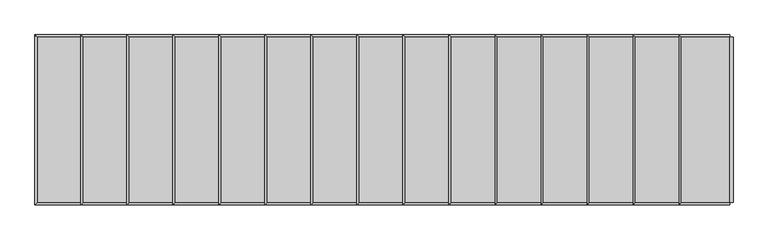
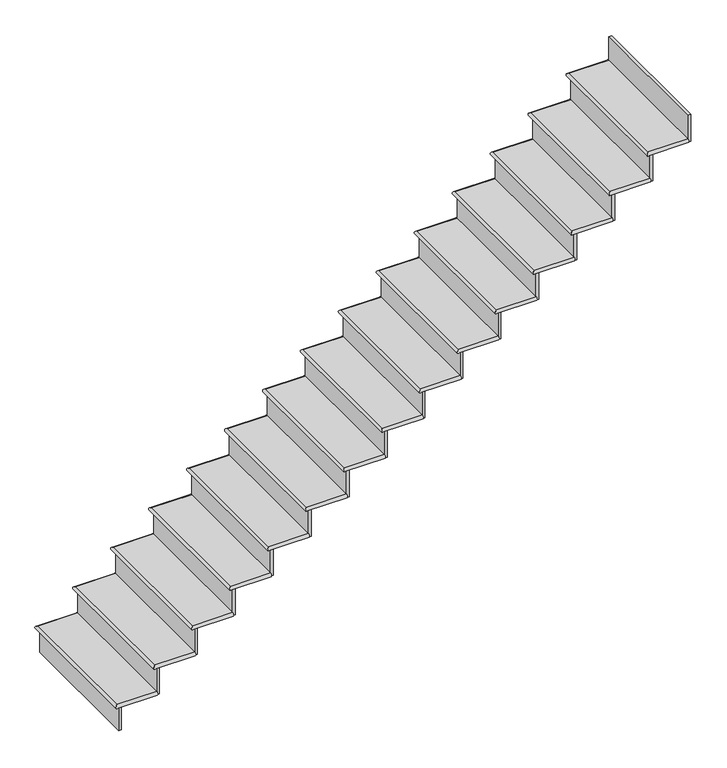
"""IFC4 building model written with IfcOpenShell, lengths in millimetres: stair flight geometry."""

from ifc_helpers import new_model, si_unit, frame, origin, place, context, project, spatial, circle_curve, ellipse_curve, faceted_brep, source, transform, mapped, element, save
from ifc_brep_helpers import plane_surface, cylinder_surface, advanced_brep


def stair_flight_3790ce72(model_context):
    return source(origin(), model_context, "Body", "SolidModel", [
        advanced_brep(
        [(-27218.1481446, 3955.9128094, 165.1), (-27218.1481446, 3955.9128094, 190.5), (-27218.1481446, 4870.3128094, 190.5), (-27218.1481446, 4870.3128094, 165.1), (-26951.4481446, 3955.9128094, 190.5), (-26951.4481446, 4870.3128094, 190.5), (-26951.4481446, 4870.3128094, 165.1), (-26951.4481446, 3955.9128094, 165.1)],
        [
            (0, 1, ellipse_curve(frame((-27218.1481446, 3955.9128094, 177.8), z_axis=(-0.7071067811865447, 0.7071067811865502, 0.0), x_axis=(-0.7071067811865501, -0.7071067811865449, 0.0)), 17.9605122, 12.7)),
            (1, 2),
            (2, 3, ellipse_curve(frame((-27218.1481446, 4870.3128094, 177.8), z_axis=(-0.7071067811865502, -0.7071067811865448, 0.0), x_axis=(0.7071067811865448, -0.7071067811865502, 0.0)), 17.9605122, 12.7)),
            (3, 0),
            (4, 5),
            (5, 2),
            (1, 4),
            (6, 7),
            (7, 0),
            (3, 6),
            (4, 7, circle_curve(frame((-26951.4481446, 3955.9128094, 177.8), z_axis=(1.0, 0.0, 0.0), x_axis=(0.0, 1.0, 0.0)), 12.7)),
            (6, 5, circle_curve(frame((-26951.4481446, 4870.3128094, 177.8), z_axis=(1.0, 0.0, 0.0), x_axis=(0.0, -1.0, 0.0)), 12.7)),
        ],
        [
            cylinder_surface(frame((-27218.1481446, 3955.9128094, 177.8), z_axis=(0.0, -1.0, 0.0), x_axis=(1.0, 0.0, 0.0)), 12.7),
            plane_surface(frame((-27230.8481446, 4870.3128094, 190.5), z_axis=(0.0, 0.0, 1.0), x_axis=(-1.0, 0.0, 0.0))),
            plane_surface(frame((-27230.8481446, 4870.3128094, 165.1), z_axis=(0.0, 0.0, -1.0), x_axis=(1.0, 0.0, 0.0))),
            plane_surface(frame((-26951.4481446, 3955.9128094, 190.5), z_axis=(1.0, 0.0, 0.0), x_axis=(0.0, 0.0, -1.0))),
            cylinder_surface(frame((-26951.4481446, 3955.9128094, 177.8), z_axis=(1.0, 0.0, 0.0), x_axis=(0.0, 1.0, 0.0)), 12.7),
            cylinder_surface(frame((-27218.1481446, 4870.3128094, 177.8), z_axis=(-1.0, 0.0, 0.0), x_axis=(0.0, -1.0, 0.0)), 12.7),
        ],
        [
            (0, [[1, 2, 3, 4]]),
            (1, [[5, 6, -2, 7]]),
            (2, [[8, 9, -4, 10]]),
            (3, [[-5, 11, -8, 12]]),
            (4, [[-11, -7, -1, -9]]),
            (5, [[-3, -6, -12, -10]]),
        ],
    ),
        faceted_brep([(-27205.4481446, 3955.9128094, 165.1), (-27205.4481446, 3955.9128094, 0.0), (-27186.3981446, 3955.9128094, 0.0), (-27186.3981446, 3955.9128094, 165.1), (-27205.4481446, 4870.3128094, 165.1), (-27186.3981446, 4870.3128094, 165.1), (-27186.3981446, 4870.3128094, 0.0), (-27205.4481446, 4870.3128094, 0.0)], [[[0, 1, 2, 3]], [[4, 5, 6, 7]], [[1, 0, 4, 7]], [[2, 1, 7, 6]], [[3, 2, 6, 5]], [[0, 3, 5, 4]]]),
        faceted_brep([(-26951.4481446, 3955.9128094, 355.6), (-26951.4481446, 3955.9128094, 165.1), (-26932.3981446, 3955.9128094, 165.1), (-26932.3981446, 3955.9128094, 355.6), (-26951.4481446, 4870.3128094, 355.6), (-26932.3981446, 4870.3128094, 355.6), (-26932.3981446, 4870.3128094, 165.1), (-26951.4481446, 4870.3128094, 165.1)], [[[0, 1, 2, 3]], [[4, 5, 6, 7]], [[1, 0, 4, 7]], [[2, 1, 7, 6]], [[3, 2, 6, 5]], [[0, 3, 5, 4]]]),
        advanced_brep(
        [(-26697.4481446, 3955.9128094, 381.0), (-26697.4481446, 4870.3128094, 381.0), (-26964.1481446, 4870.3128094, 381.0), (-26964.1481446, 3955.9128094, 381.0), (-26697.4481446, 4870.3128094, 355.6), (-26697.4481446, 3955.9128094, 355.6), (-26964.1481446, 3955.9128094, 355.6), (-26964.1481446, 4870.3128094, 355.6)],
        [
            (0, 1),
            (1, 2),
            (2, 3),
            (3, 0),
            (4, 5),
            (5, 6),
            (6, 7),
            (7, 4),
            (0, 5, circle_curve(frame((-26697.4481446, 3955.9128094, 368.3), z_axis=(1.0, 0.0, 0.0), x_axis=(0.0, 1.0, 0.0)), 12.7)),
            (4, 1, circle_curve(frame((-26697.4481446, 4870.3128094, 368.3), z_axis=(1.0, 0.0, 0.0), x_axis=(0.0, -1.0, 0.0)), 12.7)),
            (6, 3, ellipse_curve(frame((-26964.1481446, 3955.9128094, 368.3), z_axis=(-0.7071067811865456, 0.7071067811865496, 0.0), x_axis=(-0.7071067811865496, -0.7071067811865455, 0.0)), 17.9605122, 12.7)),
            (2, 7, ellipse_curve(frame((-26964.1481446, 4870.3128094, 368.3), z_axis=(-0.7071067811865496, -0.7071067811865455, 0.0), x_axis=(0.7071067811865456, -0.7071067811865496, 0.0)), 17.9605122, 12.7)),
        ],
        [
            plane_surface(frame((-27230.8481446, 4870.3128094, 381.0), z_axis=(0.0, 0.0, 1.0), x_axis=(-1.0, 0.0, 0.0))),
            plane_surface(frame((-27230.8481446, 4870.3128094, 355.6), z_axis=(0.0, 0.0, -1.0), x_axis=(1.0, 0.0, 0.0))),
            plane_surface(frame((-26697.4481446, 3955.9128094, 381.0), z_axis=(1.0, 0.0, 0.0), x_axis=(0.0, 0.0, -1.0))),
            cylinder_surface(frame((-26964.1481446, 3955.9128094, 368.3), z_axis=(0.0, -1.0, 0.0), x_axis=(1.0, 0.0, 0.0)), 12.7),
            cylinder_surface(frame((-26697.4481446, 3955.9128094, 368.3), z_axis=(1.0, 0.0, 0.0), x_axis=(0.0, 1.0, 0.0)), 12.7),
            cylinder_surface(frame((-26964.1481446, 4870.3128094, 368.3), z_axis=(-1.0, 0.0, 0.0), x_axis=(0.0, -1.0, 0.0)), 12.7),
        ],
        [
            (0, [[1, 2, 3, 4]]),
            (1, [[5, 6, 7, 8]]),
            (2, [[-1, 9, -5, 10]]),
            (3, [[11, -3, 12, -7]]),
            (4, [[-9, -4, -11, -6]]),
            (5, [[-12, -2, -10, -8]]),
        ],
    ),
        faceted_brep([(-26697.4481446, 3955.9128094, 546.1), (-26697.4481446, 3955.9128094, 355.6), (-26678.3981446, 3955.9128094, 355.6), (-26678.3981446, 3955.9128094, 546.1), (-26697.4481446, 4870.3128094, 546.1), (-26678.3981446, 4870.3128094, 546.1), (-26678.3981446, 4870.3128094, 355.6), (-26697.4481446, 4870.3128094, 355.6)], [[[0, 1, 2, 3]], [[4, 5, 6, 7]], [[1, 0, 4, 7]], [[2, 1, 7, 6]], [[3, 2, 6, 5]], [[0, 3, 5, 4]]]),
        advanced_brep(
        [(-26443.4481446, 3955.9128094, 571.5), (-26443.4481446, 4870.3128094, 571.5), (-26710.1481446, 4870.3128094, 571.5), (-26710.1481446, 3955.9128094, 571.5), (-26443.4481446, 4870.3128094, 546.1), (-26443.4481446, 3955.9128094, 546.1), (-26710.1481446, 3955.9128094, 546.1), (-26710.1481446, 4870.3128094, 546.1)],
        [
            (0, 1),
            (1, 2),
            (2, 3),
            (3, 0),
            (4, 5),
            (5, 6),
            (6, 7),
            (7, 4),
            (0, 5, circle_curve(frame((-26443.4481446, 3955.9128094, 558.8), z_axis=(1.0, 0.0, 0.0), x_axis=(0.0, 1.0, 0.0)), 12.7)),
            (4, 1, circle_curve(frame((-26443.4481446, 4870.3128094, 558.8), z_axis=(1.0, 0.0, 0.0), x_axis=(0.0, -1.0, 0.0)), 12.7)),
            (6, 3, ellipse_curve(frame((-26710.1481446, 3955.9128094, 558.8), z_axis=(-0.7071067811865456, 0.7071067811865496, 0.0), x_axis=(-0.7071067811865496, -0.7071067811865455, 0.0)), 17.9605122, 12.7)),
            (2, 7, ellipse_curve(frame((-26710.1481446, 4870.3128094, 558.8), z_axis=(-0.7071067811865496, -0.7071067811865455, 0.0), x_axis=(0.7071067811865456, -0.7071067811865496, 0.0)), 17.9605122, 12.7)),
        ],
        [
            plane_surface(frame((-26976.8481446, 4870.3128094, 571.5), z_axis=(0.0, 0.0, 1.0), x_axis=(-1.0, 0.0, 0.0))),
            plane_surface(frame((-26976.8481446, 4870.3128094, 546.1), z_axis=(0.0, 0.0, -1.0), x_axis=(1.0, 0.0, 0.0))),
            plane_surface(frame((-26443.4481446, 3955.9128094, 571.5), z_axis=(1.0, 0.0, 0.0), x_axis=(0.0, 0.0, -1.0))),
            cylinder_surface(frame((-26710.1481446, 3955.9128094, 558.8), z_axis=(0.0, -1.0, 0.0), x_axis=(1.0, 0.0, 0.0)), 12.7),
            cylinder_surface(frame((-26443.4481446, 3955.9128094, 558.8), z_axis=(1.0, 0.0, 0.0), x_axis=(0.0, 1.0, 0.0)), 12.7),
            cylinder_surface(frame((-26710.1481446, 4870.3128094, 558.8), z_axis=(-1.0, 0.0, 0.0), x_axis=(0.0, -1.0, 0.0)), 12.7),
        ],
        [
            (0, [[1, 2, 3, 4]]),
            (1, [[5, 6, 7, 8]]),
            (2, [[-1, 9, -5, 10]]),
            (3, [[11, -3, 12, -7]]),
            (4, [[-9, -4, -11, -6]]),
            (5, [[-12, -2, -10, -8]]),
        ],
    ),
        faceted_brep([(-26443.4481446, 3955.9128094, 736.6), (-26443.4481446, 3955.9128094, 546.1), (-26424.3981446, 3955.9128094, 546.1), (-26424.3981446, 3955.9128094, 736.6), (-26443.4481446, 4870.3128094, 736.6), (-26424.3981446, 4870.3128094, 736.6), (-26424.3981446, 4870.3128094, 546.1), (-26443.4481446, 4870.3128094, 546.1)], [[[0, 1, 2, 3]], [[4, 5, 6, 7]], [[1, 0, 4, 7]], [[2, 1, 7, 6]], [[3, 2, 6, 5]], [[0, 3, 5, 4]]]),
        advanced_brep(
        [(-26189.4481446, 3955.9128094, 762.0), (-26189.4481446, 4870.3128094, 762.0), (-26456.1481446, 4870.3128094, 762.0), (-26456.1481446, 3955.9128094, 762.0), (-26189.4481446, 4870.3128094, 736.6), (-26189.4481446, 3955.9128094, 736.6), (-26456.1481446, 3955.9128094, 736.6), (-26456.1481446, 4870.3128094, 736.6)],
        [
            (0, 1),
            (1, 2),
            (2, 3),
            (3, 0),
            (4, 5),
            (5, 6),
            (6, 7),
            (7, 4),
            (0, 5, circle_curve(frame((-26189.4481446, 3955.9128094, 749.3), z_axis=(1.0, 0.0, 0.0), x_axis=(0.0, 1.0, 0.0)), 12.7)),
            (4, 1, circle_curve(frame((-26189.4481446, 4870.3128094, 749.3), z_axis=(1.0, 0.0, 0.0), x_axis=(0.0, -1.0, 0.0)), 12.7)),
            (6, 3, ellipse_curve(frame((-26456.1481446, 3955.9128094, 749.3), z_axis=(-0.7071067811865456, 0.7071067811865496, 0.0), x_axis=(-0.7071067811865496, -0.7071067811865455, 0.0)), 17.9605122, 12.7)),
            (2, 7, ellipse_curve(frame((-26456.1481446, 4870.3128094, 749.3), z_axis=(-0.7071067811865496, -0.7071067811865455, 0.0), x_axis=(0.7071067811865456, -0.7071067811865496, 0.0)), 17.9605122, 12.7)),
        ],
        [
            plane_surface(frame((-26722.8481446, 4870.3128094, 762.0), z_axis=(0.0, 0.0, 1.0), x_axis=(-1.0, 0.0, 0.0))),
            plane_surface(frame((-26722.8481446, 4870.3128094, 736.6), z_axis=(0.0, 0.0, -1.0), x_axis=(1.0, 0.0, 0.0))),
            plane_surface(frame((-26189.4481446, 3955.9128094, 762.0), z_axis=(1.0, 0.0, 0.0), x_axis=(0.0, 0.0, -1.0))),
            cylinder_surface(frame((-26456.1481446, 3955.9128094, 749.3), z_axis=(0.0, -1.0, 0.0), x_axis=(1.0, 0.0, 0.0)), 12.7),
            cylinder_surface(frame((-26189.4481446, 3955.9128094, 749.3), z_axis=(1.0, 0.0, 0.0), x_axis=(0.0, 1.0, 0.0)), 12.7),
            cylinder_surface(frame((-26456.1481446, 4870.3128094, 749.3), z_axis=(-1.0, 0.0, 0.0), x_axis=(0.0, -1.0, 0.0)), 12.7),
        ],
        [
            (0, [[1, 2, 3, 4]]),
            (1, [[5, 6, 7, 8]]),
            (2, [[-1, 9, -5, 10]]),
            (3, [[11, -3, 12, -7]]),
            (4, [[-9, -4, -11, -6]]),
            (5, [[-12, -2, -10, -8]]),
        ],
    ),
        faceted_brep([(-26189.4481446, 3955.9128094, 927.1), (-26189.4481446, 3955.9128094, 736.6), (-26170.3981446, 3955.9128094, 736.6), (-26170.3981446, 3955.9128094, 927.1), (-26189.4481446, 4870.3128094, 927.1), (-26170.3981446, 4870.3128094, 927.1), (-26170.3981446, 4870.3128094, 736.6), (-26189.4481446, 4870.3128094, 736.6)], [[[0, 1, 2, 3]], [[4, 5, 6, 7]], [[1, 0, 4, 7]], [[2, 1, 7, 6]], [[3, 2, 6, 5]], [[0, 3, 5, 4]]]),
        advanced_brep(
        [(-25935.4481446, 3955.9128094, 952.5), (-25935.4481446, 4870.3128094, 952.5), (-26202.1481446, 4870.3128094, 952.5), (-26202.1481446, 3955.9128094, 952.5), (-25935.4481446, 4870.3128094, 927.1), (-25935.4481446, 3955.9128094, 927.1), (-26202.1481446, 3955.9128094, 927.1), (-26202.1481446, 4870.3128094, 927.1)],
        [
            (0, 1),
            (1, 2),
            (2, 3),
            (3, 0),
            (4, 5),
            (5, 6),
            (6, 7),
            (7, 4),
            (0, 5, circle_curve(frame((-25935.4481446, 3955.9128094, 939.8), z_axis=(1.0, 0.0, 0.0), x_axis=(0.0, 1.0, 0.0)), 12.7)),
            (4, 1, circle_curve(frame((-25935.4481446, 4870.3128094, 939.8), z_axis=(1.0, 0.0, 0.0), x_axis=(0.0, -1.0, 0.0)), 12.7)),
            (6, 3, ellipse_curve(frame((-26202.1481446, 3955.9128094, 939.8), z_axis=(-0.7071067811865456, 0.7071067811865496, 0.0), x_axis=(-0.7071067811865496, -0.7071067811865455, 0.0)), 17.9605122, 12.7)),
            (2, 7, ellipse_curve(frame((-26202.1481446, 4870.3128094, 939.8), z_axis=(-0.7071067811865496, -0.7071067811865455, 0.0), x_axis=(0.7071067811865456, -0.7071067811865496, 0.0)), 17.9605122, 12.7)),
        ],
        [
            plane_surface(frame((-26468.8481446, 4870.3128094, 952.5), z_axis=(0.0, 0.0, 1.0), x_axis=(-1.0, 0.0, 0.0))),
            plane_surface(frame((-26468.8481446, 4870.3128094, 927.1), z_axis=(0.0, 0.0, -1.0), x_axis=(1.0, 0.0, 0.0))),
            plane_surface(frame((-25935.4481446, 3955.9128094, 952.5), z_axis=(1.0, 0.0, 0.0), x_axis=(0.0, 0.0, -1.0))),
            cylinder_surface(frame((-26202.1481446, 3955.9128094, 939.8), z_axis=(0.0, -1.0, 0.0), x_axis=(1.0, 0.0, 0.0)), 12.7),
            cylinder_surface(frame((-25935.4481446, 3955.9128094, 939.8), z_axis=(1.0, 0.0, 0.0), x_axis=(0.0, 1.0, 0.0)), 12.7),
            cylinder_surface(frame((-26202.1481446, 4870.3128094, 939.8), z_axis=(-1.0, 0.0, 0.0), x_axis=(0.0, -1.0, 0.0)), 12.7),
        ],
        [
            (0, [[1, 2, 3, 4]]),
            (1, [[5, 6, 7, 8]]),
            (2, [[-1, 9, -5, 10]]),
            (3, [[11, -3, 12, -7]]),
            (4, [[-9, -4, -11, -6]]),
            (5, [[-12, -2, -10, -8]]),
        ],
    ),
        faceted_brep([(-25935.4481446, 3955.9128094, 1117.6), (-25935.4481446, 3955.9128094, 927.1), (-25916.3981446, 3955.9128094, 927.1), (-25916.3981446, 3955.9128094, 1117.6), (-25935.4481446, 4870.3128094, 1117.6), (-25916.3981446, 4870.3128094, 1117.6), (-25916.3981446, 4870.3128094, 927.1), (-25935.4481446, 4870.3128094, 927.1)], [[[0, 1, 2, 3]], [[4, 5, 6, 7]], [[1, 0, 4, 7]], [[2, 1, 7, 6]], [[3, 2, 6, 5]], [[0, 3, 5, 4]]]),
        advanced_brep(
        [(-25681.4481446, 3955.9128094, 1143.0), (-25681.4481446, 4870.3128094, 1143.0), (-25948.1481446, 4870.3128094, 1143.0), (-25948.1481446, 3955.9128094, 1143.0), (-25681.4481446, 4870.3128094, 1117.6), (-25681.4481446, 3955.9128094, 1117.6), (-25948.1481446, 3955.9128094, 1117.6), (-25948.1481446, 4870.3128094, 1117.6)],
        [
            (0, 1),
            (1, 2),
            (2, 3),
            (3, 0),
            (4, 5),
            (5, 6),
            (6, 7),
            (7, 4),
            (0, 5, circle_curve(frame((-25681.4481446, 3955.9128094, 1130.3), z_axis=(1.0, 0.0, 0.0), x_axis=(0.0, 1.0, 0.0)), 12.7)),
            (4, 1, circle_curve(frame((-25681.4481446, 4870.3128094, 1130.3), z_axis=(1.0, 0.0, 0.0), x_axis=(0.0, -1.0, 0.0)), 12.7)),
            (6, 3, ellipse_curve(frame((-25948.1481446, 3955.9128094, 1130.3), z_axis=(-0.7071067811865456, 0.7071067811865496, 0.0), x_axis=(-0.7071067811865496, -0.7071067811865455, 0.0)), 17.9605122, 12.7)),
            (2, 7, ellipse_curve(frame((-25948.1481446, 4870.3128094, 1130.3), z_axis=(-0.7071067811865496, -0.7071067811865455, 0.0), x_axis=(0.7071067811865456, -0.7071067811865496, 0.0)), 17.9605122, 12.7)),
        ],
        [
            plane_surface(frame((-26214.8481446, 4870.3128094, 1143.0), z_axis=(0.0, 0.0, 1.0), x_axis=(-1.0, 0.0, 0.0))),
            plane_surface(frame((-26214.8481446, 4870.3128094, 1117.6), z_axis=(0.0, 0.0, -1.0), x_axis=(1.0, 0.0, 0.0))),
            plane_surface(frame((-25681.4481446, 3955.9128094, 1143.0), z_axis=(1.0, 0.0, 0.0), x_axis=(0.0, 0.0, -1.0))),
            cylinder_surface(frame((-25948.1481446, 3955.9128094, 1130.3), z_axis=(0.0, -1.0, 0.0), x_axis=(1.0, 0.0, 0.0)), 12.7),
            cylinder_surface(frame((-25681.4481446, 3955.9128094, 1130.3), z_axis=(1.0, 0.0, 0.0), x_axis=(0.0, 1.0, 0.0)), 12.7),
            cylinder_surface(frame((-25948.1481446, 4870.3128094, 1130.3), z_axis=(-1.0, 0.0, 0.0), x_axis=(0.0, -1.0, 0.0)), 12.7),
        ],
        [
            (0, [[1, 2, 3, 4]]),
            (1, [[5, 6, 7, 8]]),
            (2, [[-1, 9, -5, 10]]),
            (3, [[11, -3, 12, -7]]),
            (4, [[-9, -4, -11, -6]]),
            (5, [[-12, -2, -10, -8]]),
        ],
    ),
        faceted_brep([(-25681.4481446, 3955.9128094, 1308.1), (-25681.4481446, 3955.9128094, 1117.6), (-25662.3981446, 3955.9128094, 1117.6), (-25662.3981446, 3955.9128094, 1308.1), (-25681.4481446, 4870.3128094, 1308.1), (-25662.3981446, 4870.3128094, 1308.1), (-25662.3981446, 4870.3128094, 1117.6), (-25681.4481446, 4870.3128094, 1117.6)], [[[0, 1, 2, 3]], [[4, 5, 6, 7]], [[1, 0, 4, 7]], [[2, 1, 7, 6]], [[3, 2, 6, 5]], [[0, 3, 5, 4]]]),
        advanced_brep(
        [(-25427.4481446, 3955.9128094, 1333.5), (-25427.4481446, 4870.3128094, 1333.5), (-25694.1481446, 4870.3128094, 1333.5), (-25694.1481446, 3955.9128094, 1333.5), (-25427.4481446, 4870.3128094, 1308.1), (-25427.4481446, 3955.9128094, 1308.1), (-25694.1481446, 3955.9128094, 1308.1), (-25694.1481446, 4870.3128094, 1308.1)],
        [
            (0, 1),
            (1, 2),
            (2, 3),
            (3, 0),
            (4, 5),
            (5, 6),
            (6, 7),
            (7, 4),
            (0, 5, circle_curve(frame((-25427.4481446, 3955.9128094, 1320.8), z_axis=(1.0, 0.0, 0.0), x_axis=(0.0, 1.0, 0.0)), 12.7)),
            (4, 1, circle_curve(frame((-25427.4481446, 4870.3128094, 1320.8), z_axis=(1.0, 0.0, 0.0), x_axis=(0.0, -1.0, 0.0)), 12.7)),
            (6, 3, ellipse_curve(frame((-25694.1481446, 3955.9128094, 1320.8), z_axis=(-0.7071067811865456, 0.7071067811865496, 0.0), x_axis=(-0.7071067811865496, -0.7071067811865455, 0.0)), 17.9605122, 12.7)),
            (2, 7, ellipse_curve(frame((-25694.1481446, 4870.3128094, 1320.8), z_axis=(-0.7071067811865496, -0.7071067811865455, 0.0), x_axis=(0.7071067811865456, -0.7071067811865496, 0.0)), 17.9605122, 12.7)),
        ],
        [
            plane_surface(frame((-25960.8481446, 4870.3128094, 1333.5), z_axis=(0.0, 0.0, 1.0), x_axis=(-1.0, 0.0, 0.0))),
            plane_surface(frame((-25960.8481446, 4870.3128094, 1308.1), z_axis=(0.0, 0.0, -1.0), x_axis=(1.0, 0.0, 0.0))),
            plane_surface(frame((-25427.4481446, 3955.9128094, 1333.5), z_axis=(1.0, 0.0, 0.0), x_axis=(0.0, 0.0, -1.0))),
            cylinder_surface(frame((-25694.1481446, 3955.9128094, 1320.8), z_axis=(0.0, -1.0, 0.0), x_axis=(1.0, 0.0, 0.0)), 12.7),
            cylinder_surface(frame((-25427.4481446, 3955.9128094, 1320.8), z_axis=(1.0, 0.0, 0.0), x_axis=(0.0, 1.0, 0.0)), 12.7),
            cylinder_surface(frame((-25694.1481446, 4870.3128094, 1320.8), z_axis=(-1.0, 0.0, 0.0), x_axis=(0.0, -1.0, 0.0)), 12.7),
        ],
        [
            (0, [[1, 2, 3, 4]]),
            (1, [[5, 6, 7, 8]]),
            (2, [[-1, 9, -5, 10]]),
            (3, [[11, -3, 12, -7]]),
            (4, [[-9, -4, -11, -6]]),
            (5, [[-12, -2, -10, -8]]),
        ],
    ),
        faceted_brep([(-25427.4481446, 3955.9128094, 1498.6), (-25427.4481446, 3955.9128094, 1308.1), (-25408.3981446, 3955.9128094, 1308.1), (-25408.3981446, 3955.9128094, 1498.6), (-25427.4481446, 4870.3128094, 1498.6), (-25408.3981446, 4870.3128094, 1498.6), (-25408.3981446, 4870.3128094, 1308.1), (-25427.4481446, 4870.3128094, 1308.1)], [[[0, 1, 2, 3]], [[4, 5, 6, 7]], [[1, 0, 4, 7]], [[2, 1, 7, 6]], [[3, 2, 6, 5]], [[0, 3, 5, 4]]]),
        advanced_brep(
        [(-25173.4481446, 3955.9128094, 1524.0), (-25173.4481446, 4870.3128094, 1524.0), (-25440.1481446, 4870.3128094, 1524.0), (-25440.1481446, 3955.9128094, 1524.0), (-25173.4481446, 4870.3128094, 1498.6), (-25173.4481446, 3955.9128094, 1498.6), (-25440.1481446, 3955.9128094, 1498.6), (-25440.1481446, 4870.3128094, 1498.6)],
        [
            (0, 1),
            (1, 2),
            (2, 3),
            (3, 0),
            (4, 5),
            (5, 6),
            (6, 7),
            (7, 4),
            (0, 5, circle_curve(frame((-25173.4481446, 3955.9128094, 1511.3), z_axis=(1.0, 0.0, 0.0), x_axis=(0.0, 1.0, 0.0)), 12.7)),
            (4, 1, circle_curve(frame((-25173.4481446, 4870.3128094, 1511.3), z_axis=(1.0, 0.0, 0.0), x_axis=(0.0, -1.0, 0.0)), 12.7)),
            (6, 3, ellipse_curve(frame((-25440.1481446, 3955.9128094, 1511.3), z_axis=(-0.7071067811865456, 0.7071067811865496, 0.0), x_axis=(-0.7071067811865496, -0.7071067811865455, 0.0)), 17.9605122, 12.7)),
            (2, 7, ellipse_curve(frame((-25440.1481446, 4870.3128094, 1511.3), z_axis=(-0.7071067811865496, -0.7071067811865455, 0.0), x_axis=(0.7071067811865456, -0.7071067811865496, 0.0)), 17.9605122, 12.7)),
        ],
        [
            plane_surface(frame((-25706.8481446, 4870.3128094, 1524.0), z_axis=(0.0, 0.0, 1.0), x_axis=(-1.0, 0.0, 0.0))),
            plane_surface(frame((-25706.8481446, 4870.3128094, 1498.6), z_axis=(0.0, 0.0, -1.0), x_axis=(1.0, 0.0, 0.0))),
            plane_surface(frame((-25173.4481446, 3955.9128094, 1524.0), z_axis=(1.0, 0.0, 0.0), x_axis=(0.0, 0.0, -1.0))),
            cylinder_surface(frame((-25440.1481446, 3955.9128094, 1511.3), z_axis=(0.0, -1.0, 0.0), x_axis=(1.0, 0.0, 0.0)), 12.7),
            cylinder_surface(frame((-25173.4481446, 3955.9128094, 1511.3), z_axis=(1.0, 0.0, 0.0), x_axis=(0.0, 1.0, 0.0)), 12.7),
            cylinder_surface(frame((-25440.1481446, 4870.3128094, 1511.3), z_axis=(-1.0, 0.0, 0.0), x_axis=(0.0, -1.0, 0.0)), 12.7),
        ],
        [
            (0, [[1, 2, 3, 4]]),
            (1, [[5, 6, 7, 8]]),
            (2, [[-1, 9, -5, 10]]),
            (3, [[11, -3, 12, -7]]),
            (4, [[-9, -4, -11, -6]]),
            (5, [[-12, -2, -10, -8]]),
        ],
    ),
        faceted_brep([(-25173.4481446, 3955.9128094, 1689.1), (-25173.4481446, 3955.9128094, 1498.6), (-25154.3981446, 3955.9128094, 1498.6), (-25154.3981446, 3955.9128094, 1689.1), (-25173.4481446, 4870.3128094, 1689.1), (-25154.3981446, 4870.3128094, 1689.1), (-25154.3981446, 4870.3128094, 1498.6), (-25173.4481446, 4870.3128094, 1498.6)], [[[0, 1, 2, 3]], [[4, 5, 6, 7]], [[1, 0, 4, 7]], [[2, 1, 7, 6]], [[3, 2, 6, 5]], [[0, 3, 5, 4]]]),
        advanced_brep(
        [(-24919.4481446, 3955.9128094, 1714.5), (-24919.4481446, 4870.3128094, 1714.5), (-25186.1481446, 4870.3128094, 1714.5), (-25186.1481446, 3955.9128094, 1714.5), (-24919.4481446, 4870.3128094, 1689.1), (-24919.4481446, 3955.9128094, 1689.1), (-25186.1481446, 3955.9128094, 1689.1), (-25186.1481446, 4870.3128094, 1689.1)],
        [
            (0, 1),
            (1, 2),
            (2, 3),
            (3, 0),
            (4, 5),
            (5, 6),
            (6, 7),
            (7, 4),
            (0, 5, circle_curve(frame((-24919.4481446, 3955.9128094, 1701.8), z_axis=(1.0, 0.0, 0.0), x_axis=(0.0, 1.0, 0.0)), 12.7)),
            (4, 1, circle_curve(frame((-24919.4481446, 4870.3128094, 1701.8), z_axis=(1.0, 0.0, 0.0), x_axis=(0.0, -1.0, 0.0)), 12.7)),
            (6, 3, ellipse_curve(frame((-25186.1481446, 3955.9128094, 1701.8), z_axis=(-0.7071067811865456, 0.7071067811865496, 0.0), x_axis=(-0.7071067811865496, -0.7071067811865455, 0.0)), 17.9605122, 12.7)),
            (2, 7, ellipse_curve(frame((-25186.1481446, 4870.3128094, 1701.8), z_axis=(-0.7071067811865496, -0.7071067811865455, 0.0), x_axis=(0.7071067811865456, -0.7071067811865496, 0.0)), 17.9605122, 12.7)),
        ],
        [
            plane_surface(frame((-25452.8481446, 4870.3128094, 1714.5), z_axis=(0.0, 0.0, 1.0), x_axis=(-1.0, 0.0, 0.0))),
            plane_surface(frame((-25452.8481446, 4870.3128094, 1689.1), z_axis=(0.0, 0.0, -1.0), x_axis=(1.0, 0.0, 0.0))),
            plane_surface(frame((-24919.4481446, 3955.9128094, 1714.5), z_axis=(1.0, 0.0, 0.0), x_axis=(0.0, 0.0, -1.0))),
            cylinder_surface(frame((-25186.1481446, 3955.9128094, 1701.8), z_axis=(0.0, -1.0, 0.0), x_axis=(1.0, 0.0, 0.0)), 12.7),
            cylinder_surface(frame((-24919.4481446, 3955.9128094, 1701.8), z_axis=(1.0, 0.0, 0.0), x_axis=(0.0, 1.0, 0.0)), 12.7),
            cylinder_surface(frame((-25186.1481446, 4870.3128094, 1701.8), z_axis=(-1.0, 0.0, 0.0), x_axis=(0.0, -1.0, 0.0)), 12.7),
        ],
        [
            (0, [[1, 2, 3, 4]]),
            (1, [[5, 6, 7, 8]]),
            (2, [[-1, 9, -5, 10]]),
            (3, [[11, -3, 12, -7]]),
            (4, [[-9, -4, -11, -6]]),
            (5, [[-12, -2, -10, -8]]),
        ],
    ),
        faceted_brep([(-24919.4481446, 3955.9128094, 1879.6), (-24919.4481446, 3955.9128094, 1689.1), (-24900.3981446, 3955.9128094, 1689.1), (-24900.3981446, 3955.9128094, 1879.6), (-24919.4481446, 4870.3128094, 1879.6), (-24900.3981446, 4870.3128094, 1879.6), (-24900.3981446, 4870.3128094, 1689.1), (-24919.4481446, 4870.3128094, 1689.1)], [[[0, 1, 2, 3]], [[4, 5, 6, 7]], [[1, 0, 4, 7]], [[2, 1, 7, 6]], [[3, 2, 6, 5]], [[0, 3, 5, 4]]]),
        advanced_brep(
        [(-24665.4481446, 3955.9128094, 1905.0), (-24665.4481446, 4870.3128094, 1905.0), (-24932.1481446, 4870.3128094, 1905.0), (-24932.1481446, 3955.9128094, 1905.0), (-24665.4481446, 4870.3128094, 1879.6), (-24665.4481446, 3955.9128094, 1879.6), (-24932.1481446, 3955.9128094, 1879.6), (-24932.1481446, 4870.3128094, 1879.6)],
        [
            (0, 1),
            (1, 2),
            (2, 3),
            (3, 0),
            (4, 5),
            (5, 6),
            (6, 7),
            (7, 4),
            (0, 5, circle_curve(frame((-24665.4481446, 3955.9128094, 1892.3), z_axis=(1.0, 0.0, 0.0), x_axis=(0.0, 1.0, 0.0)), 12.7)),
            (4, 1, circle_curve(frame((-24665.4481446, 4870.3128094, 1892.3), z_axis=(1.0, 0.0, 0.0), x_axis=(0.0, -1.0, 0.0)), 12.7)),
            (6, 3, ellipse_curve(frame((-24932.1481446, 3955.9128094, 1892.3), z_axis=(-0.7071067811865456, 0.7071067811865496, 0.0), x_axis=(-0.7071067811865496, -0.7071067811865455, 0.0)), 17.9605122, 12.7)),
            (2, 7, ellipse_curve(frame((-24932.1481446, 4870.3128094, 1892.3), z_axis=(-0.7071067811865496, -0.7071067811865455, 0.0), x_axis=(0.7071067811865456, -0.7071067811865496, 0.0)), 17.9605122, 12.7)),
        ],
        [
            plane_surface(frame((-25198.8481446, 4870.3128094, 1905.0), z_axis=(0.0, 0.0, 1.0), x_axis=(-1.0, 0.0, 0.0))),
            plane_surface(frame((-25198.8481446, 4870.3128094, 1879.6), z_axis=(0.0, 0.0, -1.0), x_axis=(1.0, 0.0, 0.0))),
            plane_surface(frame((-24665.4481446, 3955.9128094, 1905.0), z_axis=(1.0, 0.0, 0.0), x_axis=(0.0, 0.0, -1.0))),
            cylinder_surface(frame((-24932.1481446, 3955.9128094, 1892.3), z_axis=(0.0, -1.0, 0.0), x_axis=(1.0, 0.0, 0.0)), 12.7),
            cylinder_surface(frame((-24665.4481446, 3955.9128094, 1892.3), z_axis=(1.0, 0.0, 0.0), x_axis=(0.0, 1.0, 0.0)), 12.7),
            cylinder_surface(frame((-24932.1481446, 4870.3128094, 1892.3), z_axis=(-1.0, 0.0, 0.0), x_axis=(0.0, -1.0, 0.0)), 12.7),
        ],
        [
            (0, [[1, 2, 3, 4]]),
            (1, [[5, 6, 7, 8]]),
            (2, [[-1, 9, -5, 10]]),
            (3, [[11, -3, 12, -7]]),
            (4, [[-9, -4, -11, -6]]),
            (5, [[-12, -2, -10, -8]]),
        ],
    ),
        faceted_brep([(-24665.4481446, 3955.9128094, 2070.1), (-24665.4481446, 3955.9128094, 1879.6), (-24646.3981446, 3955.9128094, 1879.6), (-24646.3981446, 3955.9128094, 2070.1), (-24665.4481446, 4870.3128094, 2070.1), (-24646.3981446, 4870.3128094, 2070.1), (-24646.3981446, 4870.3128094, 1879.6), (-24665.4481446, 4870.3128094, 1879.6)], [[[0, 1, 2, 3]], [[4, 5, 6, 7]], [[1, 0, 4, 7]], [[2, 1, 7, 6]], [[3, 2, 6, 5]], [[0, 3, 5, 4]]]),
        advanced_brep(
        [(-24411.4481446, 3955.9128094, 2095.5), (-24411.4481446, 4870.3128094, 2095.5), (-24678.1481446, 4870.3128094, 2095.5), (-24678.1481446, 3955.9128094, 2095.5), (-24411.4481446, 4870.3128094, 2070.1), (-24411.4481446, 3955.9128094, 2070.1), (-24678.1481446, 3955.9128094, 2070.1), (-24678.1481446, 4870.3128094, 2070.1)],
        [
            (0, 1),
            (1, 2),
            (2, 3),
            (3, 0),
            (4, 5),
            (5, 6),
            (6, 7),
            (7, 4),
            (0, 5, circle_curve(frame((-24411.4481446, 3955.9128094, 2082.8), z_axis=(1.0, 0.0, 0.0), x_axis=(0.0, 1.0, 0.0)), 12.7)),
            (4, 1, circle_curve(frame((-24411.4481446, 4870.3128094, 2082.8), z_axis=(1.0, 0.0, 0.0), x_axis=(0.0, -1.0, 0.0)), 12.7)),
            (6, 3, ellipse_curve(frame((-24678.1481446, 3955.9128094, 2082.8), z_axis=(-0.7071067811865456, 0.7071067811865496, 0.0), x_axis=(-0.7071067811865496, -0.7071067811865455, 0.0)), 17.9605122, 12.7)),
            (2, 7, ellipse_curve(frame((-24678.1481446, 4870.3128094, 2082.8), z_axis=(-0.7071067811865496, -0.7071067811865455, 0.0), x_axis=(0.7071067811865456, -0.7071067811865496, 0.0)), 17.9605122, 12.7)),
        ],
        [
            plane_surface(frame((-24944.8481446, 4870.3128094, 2095.5), z_axis=(0.0, 0.0, 1.0), x_axis=(-1.0, 0.0, 0.0))),
            plane_surface(frame((-24944.8481446, 4870.3128094, 2070.1), z_axis=(0.0, 0.0, -1.0), x_axis=(1.0, 0.0, 0.0))),
            plane_surface(frame((-24411.4481446, 3955.9128094, 2095.5), z_axis=(1.0, 0.0, 0.0), x_axis=(0.0, 0.0, -1.0))),
            cylinder_surface(frame((-24678.1481446, 3955.9128094, 2082.8), z_axis=(0.0, -1.0, 0.0), x_axis=(1.0, 0.0, 0.0)), 12.7),
            cylinder_surface(frame((-24411.4481446, 3955.9128094, 2082.8), z_axis=(1.0, 0.0, 0.0), x_axis=(0.0, 1.0, 0.0)), 12.7),
            cylinder_surface(frame((-24678.1481446, 4870.3128094, 2082.8), z_axis=(-1.0, 0.0, 0.0), x_axis=(0.0, -1.0, 0.0)), 12.7),
        ],
        [
            (0, [[1, 2, 3, 4]]),
            (1, [[5, 6, 7, 8]]),
            (2, [[-1, 9, -5, 10]]),
            (3, [[11, -3, 12, -7]]),
            (4, [[-9, -4, -11, -6]]),
            (5, [[-12, -2, -10, -8]]),
        ],
    ),
        faceted_brep([(-24411.4481446, 3955.9128094, 2260.6), (-24411.4481446, 3955.9128094, 2070.1), (-24392.3981446, 3955.9128094, 2070.1), (-24392.3981446, 3955.9128094, 2260.6), (-24411.4481446, 4870.3128094, 2260.6), (-24392.3981446, 4870.3128094, 2260.6), (-24392.3981446, 4870.3128094, 2070.1), (-24411.4481446, 4870.3128094, 2070.1)], [[[0, 1, 2, 3]], [[4, 5, 6, 7]], [[1, 0, 4, 7]], [[2, 1, 7, 6]], [[3, 2, 6, 5]], [[0, 3, 5, 4]]]),
        advanced_brep(
        [(-24157.4481446, 3955.9128094, 2286.0), (-24157.4481446, 4870.3128094, 2286.0), (-24424.1481446, 4870.3128094, 2286.0), (-24424.1481446, 3955.9128094, 2286.0), (-24157.4481446, 4870.3128094, 2260.6), (-24157.4481446, 3955.9128094, 2260.6), (-24424.1481446, 3955.9128094, 2260.6), (-24424.1481446, 4870.3128094, 2260.6)],
        [
            (0, 1),
            (1, 2),
            (2, 3),
            (3, 0),
            (4, 5),
            (5, 6),
            (6, 7),
            (7, 4),
            (0, 5, circle_curve(frame((-24157.4481446, 3955.9128094, 2273.3), z_axis=(1.0, 0.0, 0.0), x_axis=(0.0, 1.0, 0.0)), 12.7)),
            (4, 1, circle_curve(frame((-24157.4481446, 4870.3128094, 2273.3), z_axis=(1.0, 0.0, 0.0), x_axis=(0.0, -1.0, 0.0)), 12.7)),
            (6, 3, ellipse_curve(frame((-24424.1481446, 3955.9128094, 2273.3), z_axis=(-0.7071067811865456, 0.7071067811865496, 0.0), x_axis=(-0.7071067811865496, -0.7071067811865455, 0.0)), 17.9605122, 12.7)),
            (2, 7, ellipse_curve(frame((-24424.1481446, 4870.3128094, 2273.3), z_axis=(-0.7071067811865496, -0.7071067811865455, 0.0), x_axis=(0.7071067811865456, -0.7071067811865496, 0.0)), 17.9605122, 12.7)),
        ],
        [
            plane_surface(frame((-24690.8481446, 4870.3128094, 2286.0), z_axis=(0.0, 0.0, 1.0), x_axis=(-1.0, 0.0, 0.0))),
            plane_surface(frame((-24690.8481446, 4870.3128094, 2260.6), z_axis=(0.0, 0.0, -1.0), x_axis=(1.0, 0.0, 0.0))),
            plane_surface(frame((-24157.4481446, 3955.9128094, 2286.0), z_axis=(1.0, 0.0, 0.0), x_axis=(0.0, 0.0, -1.0))),
            cylinder_surface(frame((-24424.1481446, 3955.9128094, 2273.3), z_axis=(0.0, -1.0, 0.0), x_axis=(1.0, 0.0, 0.0)), 12.7),
            cylinder_surface(frame((-24157.4481446, 3955.9128094, 2273.3), z_axis=(1.0, 0.0, 0.0), x_axis=(0.0, 1.0, 0.0)), 12.7),
            cylinder_surface(frame((-24424.1481446, 4870.3128094, 2273.3), z_axis=(-1.0, 0.0, 0.0), x_axis=(0.0, -1.0, 0.0)), 12.7),
        ],
        [
            (0, [[1, 2, 3, 4]]),
            (1, [[5, 6, 7, 8]]),
            (2, [[-1, 9, -5, 10]]),
            (3, [[11, -3, 12, -7]]),
            (4, [[-9, -4, -11, -6]]),
            (5, [[-12, -2, -10, -8]]),
        ],
    ),
        faceted_brep([(-24157.4481446, 3955.9128094, 2451.1), (-24157.4481446, 3955.9128094, 2260.6), (-24138.3981446, 3955.9128094, 2260.6), (-24138.3981446, 3955.9128094, 2451.1), (-24157.4481446, 4870.3128094, 2451.1), (-24138.3981446, 4870.3128094, 2451.1), (-24138.3981446, 4870.3128094, 2260.6), (-24157.4481446, 4870.3128094, 2260.6)], [[[0, 1, 2, 3]], [[4, 5, 6, 7]], [[1, 0, 4, 7]], [[2, 1, 7, 6]], [[3, 2, 6, 5]], [[0, 3, 5, 4]]]),
        advanced_brep(
        [(-23903.4481446, 3955.9128094, 2476.5), (-23903.4481446, 4870.3128094, 2476.5), (-24170.1481446, 4870.3128094, 2476.5), (-24170.1481446, 3955.9128094, 2476.5), (-23903.4481446, 4870.3128094, 2451.1), (-23903.4481446, 3955.9128094, 2451.1), (-24170.1481446, 3955.9128094, 2451.1), (-24170.1481446, 4870.3128094, 2451.1)],
        [
            (0, 1),
            (1, 2),
            (2, 3),
            (3, 0),
            (4, 5),
            (5, 6),
            (6, 7),
            (7, 4),
            (0, 5, circle_curve(frame((-23903.4481446, 3955.9128094, 2463.8), z_axis=(1.0, 0.0, 0.0), x_axis=(0.0, 1.0, 0.0)), 12.7)),
            (4, 1, circle_curve(frame((-23903.4481446, 4870.3128094, 2463.8), z_axis=(1.0, 0.0, 0.0), x_axis=(0.0, -1.0, 0.0)), 12.7)),
            (6, 3, ellipse_curve(frame((-24170.1481446, 3955.9128094, 2463.8), z_axis=(-0.7071067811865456, 0.7071067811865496, 0.0), x_axis=(-0.7071067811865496, -0.7071067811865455, 0.0)), 17.9605122, 12.7)),
            (2, 7, ellipse_curve(frame((-24170.1481446, 4870.3128094, 2463.8), z_axis=(-0.7071067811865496, -0.7071067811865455, 0.0), x_axis=(0.7071067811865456, -0.7071067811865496, 0.0)), 17.9605122, 12.7)),
        ],
        [
            plane_surface(frame((-24436.8481446, 4870.3128094, 2476.5), z_axis=(0.0, 0.0, 1.0), x_axis=(-1.0, 0.0, 0.0))),
            plane_surface(frame((-24436.8481446, 4870.3128094, 2451.1), z_axis=(0.0, 0.0, -1.0), x_axis=(1.0, 0.0, 0.0))),
            plane_surface(frame((-23903.4481446, 3955.9128094, 2476.5), z_axis=(1.0, 0.0, 0.0), x_axis=(0.0, 0.0, -1.0))),
            cylinder_surface(frame((-24170.1481446, 3955.9128094, 2463.8), z_axis=(0.0, -1.0, 0.0), x_axis=(1.0, 0.0, 0.0)), 12.7),
            cylinder_surface(frame((-23903.4481446, 3955.9128094, 2463.8), z_axis=(1.0, 0.0, 0.0), x_axis=(0.0, 1.0, 0.0)), 12.7),
            cylinder_surface(frame((-24170.1481446, 4870.3128094, 2463.8), z_axis=(-1.0, 0.0, 0.0), x_axis=(0.0, -1.0, 0.0)), 12.7),
        ],
        [
            (0, [[1, 2, 3, 4]]),
            (1, [[5, 6, 7, 8]]),
            (2, [[-1, 9, -5, 10]]),
            (3, [[11, -3, 12, -7]]),
            (4, [[-9, -4, -11, -6]]),
            (5, [[-12, -2, -10, -8]]),
        ],
    ),
        faceted_brep([(-23903.4481446, 3955.9128094, 2641.6), (-23903.4481446, 3955.9128094, 2451.1), (-23884.3981446, 3955.9128094, 2451.1), (-23884.3981446, 3955.9128094, 2641.6), (-23903.4481446, 4870.3128094, 2641.6), (-23884.3981446, 4870.3128094, 2641.6), (-23884.3981446, 4870.3128094, 2451.1), (-23903.4481446, 4870.3128094, 2451.1)], [[[0, 1, 2, 3]], [[4, 5, 6, 7]], [[1, 0, 4, 7]], [[2, 1, 7, 6]], [[3, 2, 6, 5]], [[0, 3, 5, 4]]]),
        advanced_brep(
        [(-23649.4481446, 3955.9128094, 2667.0), (-23649.4481446, 4870.3128094, 2667.0), (-23916.1481446, 4870.3128094, 2667.0), (-23916.1481446, 3955.9128094, 2667.0), (-23649.4481446, 4870.3128094, 2641.6), (-23649.4481446, 3955.9128094, 2641.6), (-23916.1481446, 3955.9128094, 2641.6), (-23916.1481446, 4870.3128094, 2641.6)],
        [
            (0, 1),
            (1, 2),
            (2, 3),
            (3, 0),
            (4, 5),
            (5, 6),
            (6, 7),
            (7, 4),
            (0, 5, circle_curve(frame((-23649.4481446, 3955.9128094, 2654.3), z_axis=(1.0, 0.0, 0.0), x_axis=(0.0, 1.0, 0.0)), 12.7)),
            (4, 1, circle_curve(frame((-23649.4481446, 4870.3128094, 2654.3), z_axis=(1.0, 0.0, 0.0), x_axis=(0.0, -1.0, 0.0)), 12.7)),
            (6, 3, ellipse_curve(frame((-23916.1481446, 3955.9128094, 2654.3), z_axis=(-0.7071067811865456, 0.7071067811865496, 0.0), x_axis=(-0.7071067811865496, -0.7071067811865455, 0.0)), 17.9605122, 12.7)),
            (2, 7, ellipse_curve(frame((-23916.1481446, 4870.3128094, 2654.3), z_axis=(-0.7071067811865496, -0.7071067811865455, 0.0), x_axis=(0.7071067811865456, -0.7071067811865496, 0.0)), 17.9605122, 12.7)),
        ],
        [
            plane_surface(frame((-24182.8481446, 4870.3128094, 2667.0), z_axis=(0.0, 0.0, 1.0), x_axis=(-1.0, 0.0, 0.0))),
            plane_surface(frame((-24182.8481446, 4870.3128094, 2641.6), z_axis=(0.0, 0.0, -1.0), x_axis=(1.0, 0.0, 0.0))),
            plane_surface(frame((-23649.4481446, 3955.9128094, 2667.0), z_axis=(1.0, 0.0, 0.0), x_axis=(0.0, 0.0, -1.0))),
            cylinder_surface(frame((-23916.1481446, 3955.9128094, 2654.3), z_axis=(0.0, -1.0, 0.0), x_axis=(1.0, 0.0, 0.0)), 12.7),
            cylinder_surface(frame((-23649.4481446, 3955.9128094, 2654.3), z_axis=(1.0, 0.0, 0.0), x_axis=(0.0, 1.0, 0.0)), 12.7),
            cylinder_surface(frame((-23916.1481446, 4870.3128094, 2654.3), z_axis=(-1.0, 0.0, 0.0), x_axis=(0.0, -1.0, 0.0)), 12.7),
        ],
        [
            (0, [[1, 2, 3, 4]]),
            (1, [[5, 6, 7, 8]]),
            (2, [[-1, 9, -5, 10]]),
            (3, [[11, -3, 12, -7]]),
            (4, [[-9, -4, -11, -6]]),
            (5, [[-12, -2, -10, -8]]),
        ],
    ),
        faceted_brep([(-23649.4481446, 3955.9128094, 2832.1), (-23649.4481446, 3955.9128094, 2641.6), (-23630.3981446, 3955.9128094, 2641.6), (-23630.3981446, 3955.9128094, 2832.1), (-23649.4481446, 4870.3128094, 2832.1), (-23630.3981446, 4870.3128094, 2832.1), (-23630.3981446, 4870.3128094, 2641.6), (-23649.4481446, 4870.3128094, 2641.6)], [[[0, 1, 2, 3]], [[4, 5, 6, 7]], [[1, 0, 4, 7]], [[2, 1, 7, 6]], [[3, 2, 6, 5]], [[0, 3, 5, 4]]]),
        faceted_brep([(-23395.4481446, 3955.9128094, 3022.6), (-23395.4481446, 3955.9128094, 2832.1), (-23376.3981446, 3955.9128094, 2832.1), (-23376.3981446, 3955.9128094, 3022.6), (-23395.4481446, 4870.3128094, 3022.6), (-23376.3981446, 4870.3128094, 3022.6), (-23376.3981446, 4870.3128094, 2832.1), (-23395.4481446, 4870.3128094, 2832.1)], [[[0, 1, 2, 3]], [[4, 5, 6, 7]], [[1, 0, 4, 7]], [[2, 1, 7, 6]], [[3, 2, 6, 5]], [[0, 3, 5, 4]]]),
        advanced_brep(
        [(-23395.4481446, 3955.9128094, 2857.5), (-23395.4481446, 4870.3128094, 2857.5), (-23662.1481446, 4870.3128094, 2857.5), (-23662.1481446, 3955.9128094, 2857.5), (-23395.4481446, 4870.3128094, 2832.1), (-23395.4481446, 3955.9128094, 2832.1), (-23662.1481446, 3955.9128094, 2832.1), (-23662.1481446, 4870.3128094, 2832.1)],
        [
            (0, 1),
            (1, 2),
            (2, 3),
            (3, 0),
            (4, 5),
            (5, 6),
            (6, 7),
            (7, 4),
            (0, 5, circle_curve(frame((-23395.4481446, 3955.9128094, 2844.8), z_axis=(1.0, 0.0, 0.0), x_axis=(0.0, 1.0, 0.0)), 12.7)),
            (4, 1, circle_curve(frame((-23395.4481446, 4870.3128094, 2844.8), z_axis=(1.0, 0.0, 0.0), x_axis=(0.0, -1.0, 0.0)), 12.7)),
            (6, 3, ellipse_curve(frame((-23662.1481446, 3955.9128094, 2844.8), z_axis=(-0.7071067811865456, 0.7071067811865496, 0.0), x_axis=(-0.7071067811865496, -0.7071067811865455, 0.0)), 17.9605122, 12.7)),
            (2, 7, ellipse_curve(frame((-23662.1481446, 4870.3128094, 2844.8), z_axis=(-0.7071067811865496, -0.7071067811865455, 0.0), x_axis=(0.7071067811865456, -0.7071067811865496, 0.0)), 17.9605122, 12.7)),
        ],
        [
            plane_surface(frame((-23928.8481446, 4870.3128094, 2857.5), z_axis=(0.0, 0.0, 1.0), x_axis=(-1.0, 0.0, 0.0))),
            plane_surface(frame((-23928.8481446, 4870.3128094, 2832.1), z_axis=(0.0, 0.0, -1.0), x_axis=(1.0, 0.0, 0.0))),
            plane_surface(frame((-23395.4481446, 3955.9128094, 2857.5), z_axis=(1.0, 0.0, 0.0), x_axis=(0.0, 0.0, -1.0))),
            cylinder_surface(frame((-23662.1481446, 3955.9128094, 2844.8), z_axis=(0.0, -1.0, 0.0), x_axis=(1.0, 0.0, 0.0)), 12.7),
            cylinder_surface(frame((-23395.4481446, 3955.9128094, 2844.8), z_axis=(1.0, 0.0, 0.0), x_axis=(0.0, 1.0, 0.0)), 12.7),
            cylinder_surface(frame((-23662.1481446, 4870.3128094, 2844.8), z_axis=(-1.0, 0.0, 0.0), x_axis=(0.0, -1.0, 0.0)), 12.7),
        ],
        [
            (0, [[1, 2, 3, 4]]),
            (1, [[5, 6, 7, 8]]),
            (2, [[-1, 9, -5, 10]]),
            (3, [[11, -3, 12, -7]]),
            (4, [[-9, -4, -11, -6]]),
            (5, [[-12, -2, -10, -8]]),
        ],
    ),
    ])


if __name__ == "__main__":
    model = new_model("IFC4")
    model_context = context("Model", 3, world=origin())
    ifc_project = project(units=[si_unit("LENGTHUNIT", "METRE", prefix="MILLI")], contexts=[model_context])
    site = spatial("IfcSite", under=ifc_project)
    building = spatial("IfcBuilding", under=site)
    placement = place(None, origin())
    stair_flight_shape = stair_flight_3790ce72(model_context)
    element("IfcStairFlight", 1, ObjectType="Unassigned Steps with 1\" Tread 1\" Nosing 3/4\" Riser (1)", at=placement, inside=building, context=model_context, shape_type="MappedRepresentation", body=[
        mapped(stair_flight_shape, transform((0.0, 0.0, 0.0), x_axis=(1.0, 0.0, 0.0), y_axis=(0.0, 1.0, 0.0), z_axis=(0.0, 0.0, 1.0))),
    ])
    save(model, "model.ifc")
